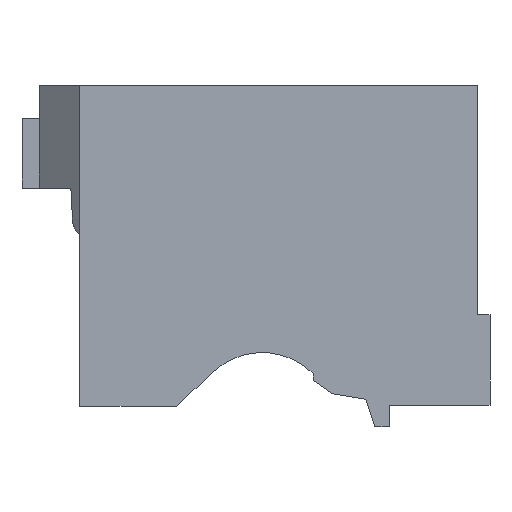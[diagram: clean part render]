
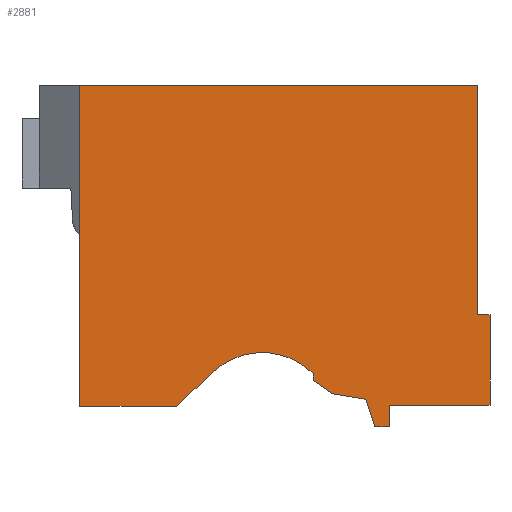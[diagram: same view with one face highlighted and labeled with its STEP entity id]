
A CAD part, left-side view. The second image highlights one B-rep face of the part: STEP entity #2881.
In plain terms, the highlighted planar face has unit normal (-1, 0, 0).
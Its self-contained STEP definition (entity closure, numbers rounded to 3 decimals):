
#24 = EDGE_CURVE ( 'NONE', #5298, #1843, #4332, .T. ) ;
#81 = LINE ( 'NONE', #329, #1950 ) ;
#264 = DIRECTION ( 'NONE',  ( 0., 0., 1. ) ) ;
#266 = DIRECTION ( 'NONE',  ( 0., 1., 0. ) ) ;
#329 = CARTESIAN_POINT ( 'NONE',  ( -47.4, -25.724, 61.7 ) ) ;
#374 = FACE_OUTER_BOUND ( 'NONE', #5006, .T. ) ;
#393 = CARTESIAN_POINT ( 'NONE',  ( -47.4, -4.786, 51.045 ) ) ;
#401 = ORIENTED_EDGE ( 'NONE', *, *, #3990, .F. ) ;
#429 = CARTESIAN_POINT ( 'NONE',  ( -47.4, -26.924, 52.9 ) ) ;
#513 = LINE ( 'NONE', #606, #4620 ) ;
#606 = CARTESIAN_POINT ( 'NONE',  ( -47.4, -17.124, 52.9 ) ) ;
#614 = DIRECTION ( 'NONE',  ( 0., 0.987, 0.161 ) ) ;
#703 = EDGE_CURVE ( 'NONE', #2164, #1086, #81, .T. ) ;
#712 = CARTESIAN_POINT ( 'NONE',  ( -47.4, -9.724, 55.3 ) ) ;
#718 = VERTEX_POINT ( 'NONE', #4445 ) ;
#792 = ORIENTED_EDGE ( 'NONE', *, *, #4025, .F. ) ;
#836 = CIRCLE ( 'NONE', #4810, 6.969 ) ;
#839 = PLANE ( 'NONE',  #3323 ) ;
#906 = VECTOR ( 'NONE', #1774, 1000. ) ;
#1041 = EDGE_CURVE ( 'NONE', #718, #1547, #5224, .T. ) ;
#1051 = DIRECTION ( 'NONE',  ( 0., 0.829, 0.559 ) ) ;
#1086 = VERTEX_POINT ( 'NONE', #4319 ) ;
#1141 = LINE ( 'NONE', #3385, #4405 ) ;
#1160 = DIRECTION ( 'NONE',  ( 0., -1., 0. ) ) ;
#1186 = ORIENTED_EDGE ( 'NONE', *, *, #1410, .F. ) ;
#1313 = VERTEX_POINT ( 'NONE', #2774 ) ;
#1400 = CARTESIAN_POINT ( 'NONE',  ( -47.4, -15.724, 50.8 ) ) ;
#1410 = EDGE_CURVE ( 'NONE', #4053, #718, #4628, .T. ) ;
#1547 = VERTEX_POINT ( 'NONE', #4660 ) ;
#1569 = EDGE_CURVE ( 'NONE', #4444, #5141, #3091, .T. ) ;
#1678 = CARTESIAN_POINT ( 'NONE',  ( -47.4, -26.924, 61.7 ) ) ;
#1695 = EDGE_CURVE ( 'NONE', #4912, #5186, #513, .T. ) ;
#1715 = VECTOR ( 'NONE', #264, 1000. ) ;
#1729 = ORIENTED_EDGE ( 'NONE', *, *, #1908, .F. ) ;
#1731 = CARTESIAN_POINT ( 'NONE',  ( -47.4, 12.976, 52.8 ) ) ;
#1774 = DIRECTION ( 'NONE',  ( 0., -1., 0. ) ) ;
#1779 = VECTOR ( 'NONE', #3335, 1000. ) ;
#1782 = CARTESIAN_POINT ( 'NONE',  ( -47.4, 12.976, 67.5 ) ) ;
#1798 = EDGE_CURVE ( 'NONE', #2250, #5298, #836, .T. ) ;
#1812 = VECTOR ( 'NONE', #266, 1000. ) ;
#1843 = VERTEX_POINT ( 'NONE', #5262 ) ;
#1908 = EDGE_CURVE ( 'NONE', #1313, #4053, #3026, .T. ) ;
#1950 = VECTOR ( 'NONE', #1160, 1000. ) ;
#1952 = EDGE_CURVE ( 'NONE', #1843, #2366, #1995, .T. ) ;
#1987 = CARTESIAN_POINT ( 'NONE',  ( -47.4, 12.976, 52.8 ) ) ;
#1995 = LINE ( 'NONE', #1987, #2826 ) ;
#2038 = CARTESIAN_POINT ( 'NONE',  ( -47.4, -14.867, 53.477 ) ) ;
#2105 = LINE ( 'NONE', #1782, #2561 ) ;
#2164 = VERTEX_POINT ( 'NONE', #3723 ) ;
#2166 = CARTESIAN_POINT ( 'NONE',  ( -47.4, 12.976, 84. ) ) ;
#2250 = VERTEX_POINT ( 'NONE', #2414 ) ;
#2302 = DIRECTION ( 'NONE',  ( 0., 1., 0. ) ) ;
#2366 = VERTEX_POINT ( 'NONE', #1731 ) ;
#2381 = CARTESIAN_POINT ( 'NONE',  ( -47.4, -4.786, 51.045 ) ) ;
#2409 = ORIENTED_EDGE ( 'NONE', *, *, #4118, .F. ) ;
#2414 = CARTESIAN_POINT ( 'NONE',  ( -47.4, -9.724, 55.964 ) ) ;
#2561 = VECTOR ( 'NONE', #4642, 1000. ) ;
#2688 = ORIENTED_EDGE ( 'NONE', *, *, #1695, .F. ) ;
#2690 = DIRECTION ( 'NONE',  ( 0., 0., -1. ) ) ;
#2709 = VECTOR ( 'NONE', #614, 1000. ) ;
#2714 = VERTEX_POINT ( 'NONE', #712 ) ;
#2774 = CARTESIAN_POINT ( 'NONE',  ( -47.4, -17.124, 50.8 ) ) ;
#2783 = ORIENTED_EDGE ( 'NONE', *, *, #24, .F. ) ;
#2826 = VECTOR ( 'NONE', #2860, 1000. ) ;
#2860 = DIRECTION ( 'NONE',  ( 0., 1., 0. ) ) ;
#2881 = ADVANCED_FACE ( 'NONE', ( #374 ), #839, .F. ) ;
#2970 = CARTESIAN_POINT ( 'NONE',  ( -47.4, 16.876, 84. ) ) ;
#3026 = LINE ( 'NONE', #4382, #1812 ) ;
#3091 = LINE ( 'NONE', #2970, #906 ) ;
#3113 = CARTESIAN_POINT ( 'NONE',  ( -47.4, -9.724, 55.964 ) ) ;
#3172 = DIRECTION ( 'NONE',  ( -1., 0., 0. ) ) ;
#3176 = ORIENTED_EDGE ( 'NONE', *, *, #1798, .F. ) ;
#3241 = VECTOR ( 'NONE', #5056, 1000. ) ;
#3274 = DIRECTION ( 'NONE',  ( 0., 0., -1. ) ) ;
#3323 = AXIS2_PLACEMENT_3D ( 'NONE', #393, #4959, #3274 ) ;
#3335 = DIRECTION ( 'NONE',  ( 0., 0., -1. ) ) ;
#3385 = CARTESIAN_POINT ( 'NONE',  ( -47.4, -9.724, 55.3 ) ) ;
#3412 = CARTESIAN_POINT ( 'NONE',  ( -47.4, -25.724, 84. ) ) ;
#3475 = ORIENTED_EDGE ( 'NONE', *, *, #703, .F. ) ;
#3619 = DIRECTION ( 'NONE',  ( 0., 0., -1. ) ) ;
#3710 = ORIENTED_EDGE ( 'NONE', *, *, #5071, .F. ) ;
#3723 = CARTESIAN_POINT ( 'NONE',  ( -47.4, -25.724, 61.7 ) ) ;
#3835 = VECTOR ( 'NONE', #4600, 1000. ) ;
#3878 = CARTESIAN_POINT ( 'NONE',  ( -47.4, -14.867, 53.477 ) ) ;
#3990 = EDGE_CURVE ( 'NONE', #1086, #4912, #4074, .T. ) ;
#4025 = EDGE_CURVE ( 'NONE', #5141, #2164, #4921, .T. ) ;
#4053 = VERTEX_POINT ( 'NONE', #1400 ) ;
#4062 = ORIENTED_EDGE ( 'NONE', *, *, #4542, .F. ) ;
#4074 = LINE ( 'NONE', #1678, #1779 ) ;
#4091 = EDGE_CURVE ( 'NONE', #1547, #2714, #1141, .T. ) ;
#4110 = DIRECTION ( 'NONE',  ( 0., 0.305, 0.952 ) ) ;
#4118 = EDGE_CURVE ( 'NONE', #2714, #2250, #4733, .T. ) ;
#4209 = LINE ( 'NONE', #4238, #5062 ) ;
#4238 = CARTESIAN_POINT ( 'NONE',  ( -47.4, -17.124, 52.9 ) ) ;
#4319 = CARTESIAN_POINT ( 'NONE',  ( -47.4, -26.924, 61.7 ) ) ;
#4332 = LINE ( 'NONE', #4702, #3241 ) ;
#4371 = CARTESIAN_POINT ( 'NONE',  ( -47.4, -0.034, 56.142 ) ) ;
#4382 = CARTESIAN_POINT ( 'NONE',  ( -47.4, -17.124, 50.8 ) ) ;
#4386 = ORIENTED_EDGE ( 'NONE', *, *, #1569, .F. ) ;
#4405 = VECTOR ( 'NONE', #1051, 1000. ) ;
#4444 = VERTEX_POINT ( 'NONE', #2166 ) ;
#4445 = CARTESIAN_POINT ( 'NONE',  ( -47.4, -14.867, 53.477 ) ) ;
#4542 = EDGE_CURVE ( 'NONE', #5186, #1313, #4209, .T. ) ;
#4565 = VECTOR ( 'NONE', #4110, 1000. ) ;
#4600 = DIRECTION ( 'NONE',  ( 0., 0., -1. ) ) ;
#4620 = VECTOR ( 'NONE', #2302, 1000. ) ;
#4628 = LINE ( 'NONE', #2038, #4565 ) ;
#4633 = CARTESIAN_POINT ( 'NONE',  ( -47.4, -25.724, 61.7 ) ) ;
#4642 = DIRECTION ( 'NONE',  ( 0., 0., 1. ) ) ;
#4660 = CARTESIAN_POINT ( 'NONE',  ( -47.4, -11.651, 54. ) ) ;
#4702 = CARTESIAN_POINT ( 'NONE',  ( -47.4, 3.55, 52.8 ) ) ;
#4722 = ORIENTED_EDGE ( 'NONE', *, *, #1041, .F. ) ;
#4724 = ORIENTED_EDGE ( 'NONE', *, *, #4091, .F. ) ;
#4733 = LINE ( 'NONE', #3113, #1715 ) ;
#4810 = AXIS2_PLACEMENT_3D ( 'NONE', #2381, #3172, #3619 ) ;
#4912 = VERTEX_POINT ( 'NONE', #429 ) ;
#4921 = LINE ( 'NONE', #4633, #3835 ) ;
#4959 = DIRECTION ( 'NONE',  ( 1., 0., 0. ) ) ;
#5006 = EDGE_LOOP ( 'NONE', ( #4386, #3710, #5134, #2783, #3176, #2409, #4724, #4722, #1186, #1729, #4062, #2688, #401, #3475, #792 ) ) ;
#5056 = DIRECTION ( 'NONE',  ( 0., 0.731, -0.682 ) ) ;
#5062 = VECTOR ( 'NONE', #2690, 1000. ) ;
#5071 = EDGE_CURVE ( 'NONE', #2366, #4444, #2105, .T. ) ;
#5134 = ORIENTED_EDGE ( 'NONE', *, *, #1952, .F. ) ;
#5141 = VERTEX_POINT ( 'NONE', #3412 ) ;
#5160 = CARTESIAN_POINT ( 'NONE',  ( -47.4, -17.124, 52.9 ) ) ;
#5186 = VERTEX_POINT ( 'NONE', #5160 ) ;
#5224 = LINE ( 'NONE', #3878, #2709 ) ;
#5262 = CARTESIAN_POINT ( 'NONE',  ( -47.4, 3.55, 52.8 ) ) ;
#5298 = VERTEX_POINT ( 'NONE', #4371 ) ;
